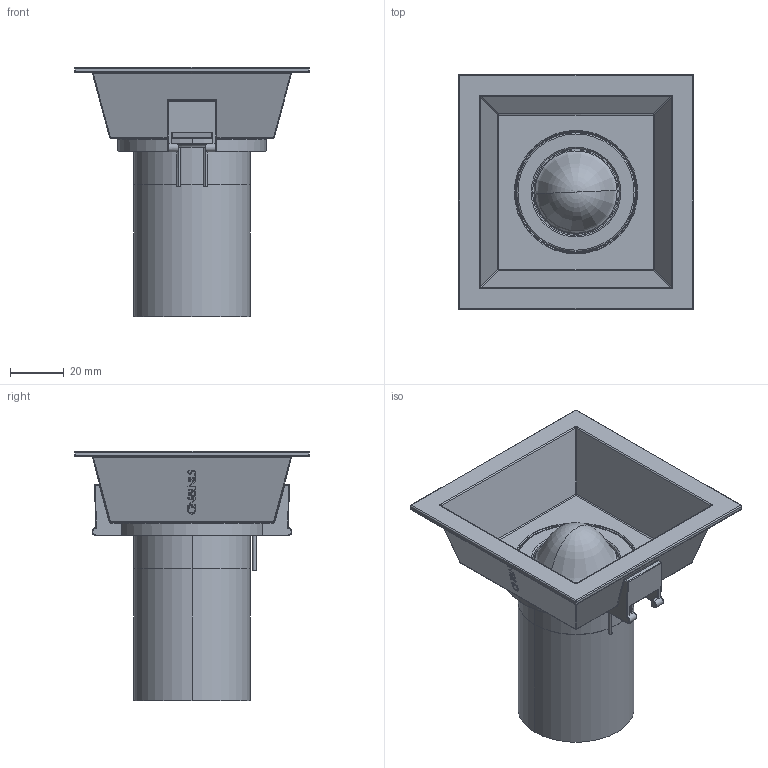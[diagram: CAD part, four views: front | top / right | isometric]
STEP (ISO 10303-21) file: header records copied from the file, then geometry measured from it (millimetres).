
FILE_DESCRIPTION((''),'2;1');
FILE_NAME('INDICE_PRO_Q_FISSO_SW0001','2025-05-15T11:53:42',('elena.baldelli'),(''),'CREO PARAMETRIC BY PTC INC, 2020354','CREO PARAMETRIC BY PTC INC, 2020354','');
FILE_SCHEMA(('CONFIG_CONTROL_DESIGN'));
Length unit declared in the file: millimetre
Products named in the file (1): INDICE_PRO_Q_FISSO_SW0001
Bounding box: 87.1 x 87.1 x 92.35 mm (x, y, z)
Surface area: 38763 mm2 (no closed solid volume)
Topology: 0 solids, 14 shells, 397 faces, 1304 edges, 893 vertices
Faces by surface type: cylinder 164, plane 76, bspline 62, torus 60, sphere 18, cone 10, extrusion 5, revolution 2
Entity records: 22941 total; most frequent: CARTESIAN_POINT 12901, ORIENTED_EDGE 2092, DIRECTION 1777, EDGE_CURVE 1302, VERTEX_POINT 893, AXIS2_PLACEMENT_3D 720, B_SPLINE_CURVE_WITH_KNOTS 587, EDGE_LOOP 414
